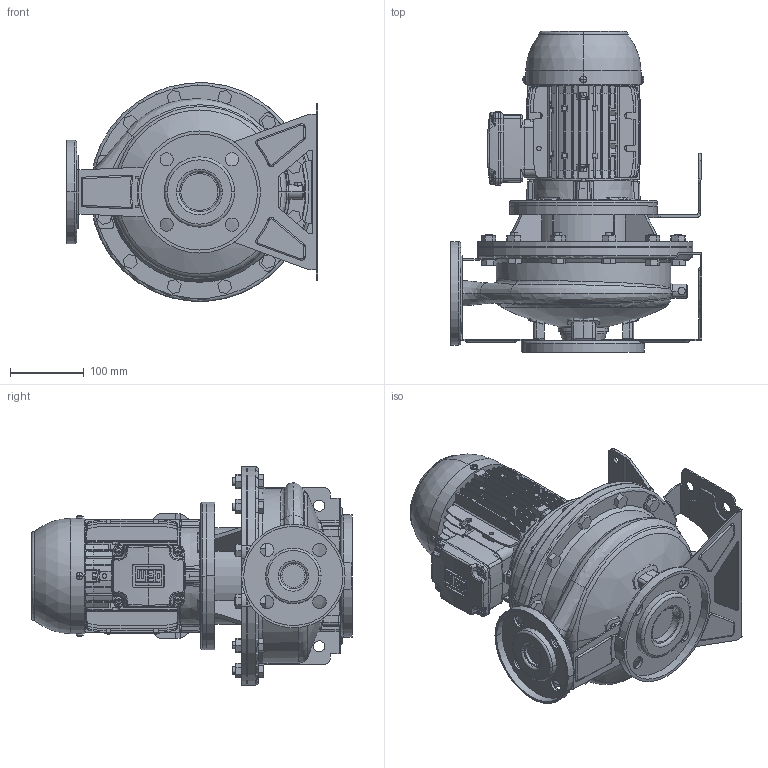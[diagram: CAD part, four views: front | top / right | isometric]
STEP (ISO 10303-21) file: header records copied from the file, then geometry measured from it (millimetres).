
FILE_DESCRIPTION (( 'STEP AP214' ), '1' );
FILE_NAME ('3LS4 32-200_0.55 & 0.75_(80)_W21.STEP', '2026-10-05T01:14:34', ( '' ), ( '' ), 'SwSTEP 2.0', 'SolidWorks 2024', '' );
FILE_SCHEMA (( 'AUTOMOTIVE_DESIGN' ));
Length unit declared in the file: inch
Products named in the file (3): 80 ALIE3_W21_B5; 3LS4 32-200_0.55 & 0.75_(80)_W21; 3SF4_32-200_0_55
Assembly tree (2 placements, depth 2):
  3LS4 32-200_0.55 & 0.75_(80)_W21
    3SF4_32-200_0_55
    80 ALIE3_W21_B5
Bounding box: 340 x 434 x 295.54 mm (x, y, z)
Volume: 9934800.7 mm3; surface area: 1183250.8 mm2
Topology: 12 solids, 18 shells, 2998 faces, 7835 edges, 5075 vertices
Faces by surface type: plane 1866, cylinder 712, bspline 159, torus 133, cone 94, sphere 34
Entity records: 111586 total; most frequent: CARTESIAN_POINT 38905, ORIENTED_EDGE 15634, DIRECTION 14228, EDGE_CURVE 7817, VECTOR 5116, LINE 5116, VERTEX_POINT 5075, AXIS2_PLACEMENT_3D 4556
